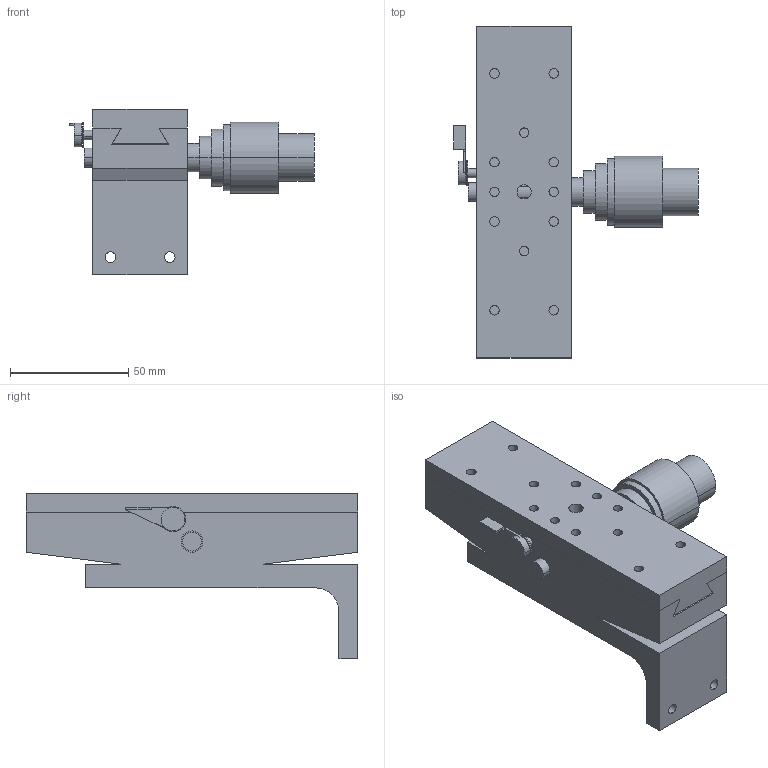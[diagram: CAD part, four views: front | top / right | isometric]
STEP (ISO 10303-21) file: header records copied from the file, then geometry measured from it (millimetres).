
FILE_DESCRIPTION (( 'STEP AP203' ), '1' );
FILE_NAME ('LV-112SL.STEP', '2008-03-03T08:44:48', ( '' ), ( '' ), 'SwSTEP 2.0', 'SolidWorks 2007', '' );
FILE_SCHEMA (( 'CONFIG_CONTROL_DESIGN' ));
Length unit declared in the file: millimetre
Products named in the file (3): LV-112SL; LV-112SL-1; LV-112SL-2
Assembly tree (2 placements, depth 2):
  LV-112SL
    LV-112SL-1
    LV-112SL-2
Bounding box: 103.2 x 140 x 70 mm (x, y, z)
Volume: 238325.9 mm3; surface area: 56678.7 mm2
Topology: 2 solids, 2 shells, 118 faces, 297 edges, 197 vertices
Faces by surface type: plane 60, cylinder 58
Entity records: 3939 total; most frequent: DIRECTION 658, CARTESIAN_POINT 623, ORIENTED_EDGE 594, EDGE_CURVE 297, AXIS2_PLACEMENT_3D 240, VERTEX_POINT 197, VECTOR 178, LINE 178
